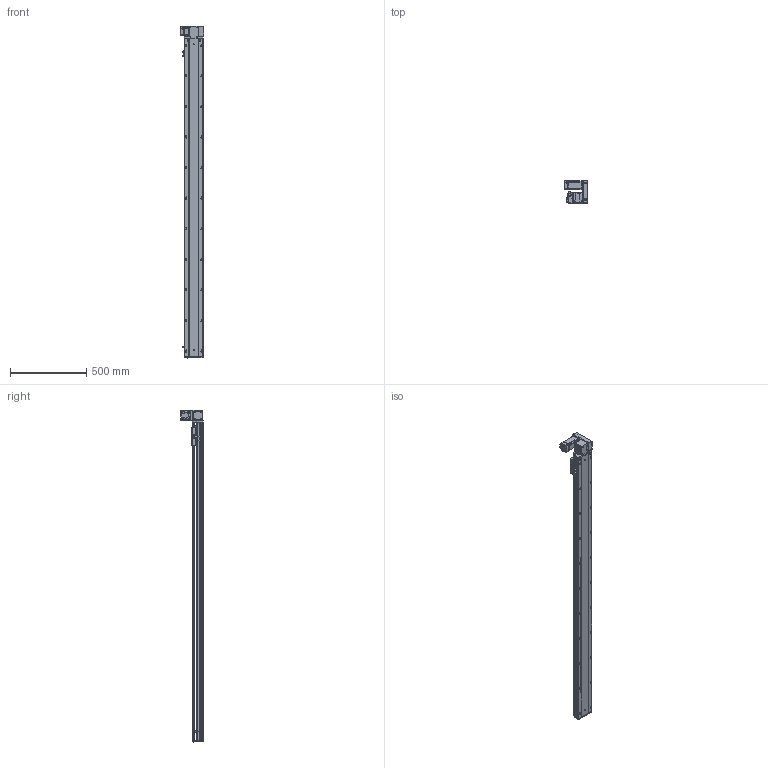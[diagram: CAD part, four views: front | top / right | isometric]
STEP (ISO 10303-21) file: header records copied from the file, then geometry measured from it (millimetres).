
FILE_DESCRIPTION (( 'STEP AP203' ), '1' );
FILE_NAME ('RY120-T-300-UR.SLDASM_1850.step', '2021-03-01T05:58:07', ( '盈信电脑' ), ( '东莞市道滘镇水果街19号' ), 'SwSTEP 2.0', 'SolidWorks 2012', '' );
FILE_SCHEMA (( 'CONFIG_CONTROL_DESIGN' ));
Length unit declared in the file: millimetre
Products named in the file (17): RY120-T-300-UR.SLDASM_1850; RY120-T主同步轮轴承压盖; RY120-T蹟翐M4; 15; RY120-T萇儂欶; RY120-T翋肮祭謫裔啣; RY120-T萇儂假蚾啣; RY120-T翋肮祭盓傅釱; 滅袉蝶18-10; RY120-T肮祭湍揤踡輸2; RY120-T肮祭湍揤踡輸1; 覜茼ん672; RY120外置感应片(140共用）; RY120肮祭湍臏賑輸; RY120-T-300-UR倰第菁釱_1850; RY120-T-300-UR倰第奻裔啣_1850; RY120綴裔啣
Assembly tree (22 placements, depth 2):
  RY120-T-300-UR.SLDASM_1850
    RY120-T-300-UR倰第菁釱_1850
    RY120-T-300-UR倰第奻裔啣_1850
    RY120肮祭湍臏賑輸
    RY120綴裔啣
    覜茼ん672  x3
    RY120外置感应片(140共用）
    RY120-T肮祭湍揤踡輸1
    RY120-T肮祭湍揤踡輸2
    RY120-T翋肮祭盓傅釱
    RY120-T萇儂假蚾啣
    滅袉蝶18-10  x2
    RY120-T翋肮祭謫裔啣
    15
    RY120-T蹟翐M4  x4
    RY120-T萇儂欶
    RY120-T主同步轮轴承压盖
Bounding box: 155.5 x 146 x 2171 mm (x, y, z)
Volume: 5477178.6 mm3; surface area: 2088204.6 mm2
Topology: 23 solids, 23 shells, 3100 faces, 8492 edges, 5418 vertices
Faces by surface type: plane 1456, cylinder 1240, cone 315, bspline 89
Entity records: 99925 total; most frequent: CARTESIAN_POINT 26196, ORIENTED_EDGE 15296, DIRECTION 14394, EDGE_CURVE 7648, VERTEX_POINT 5005, AXIS2_PLACEMENT_3D 4887, VECTOR 4620, LINE 4620
